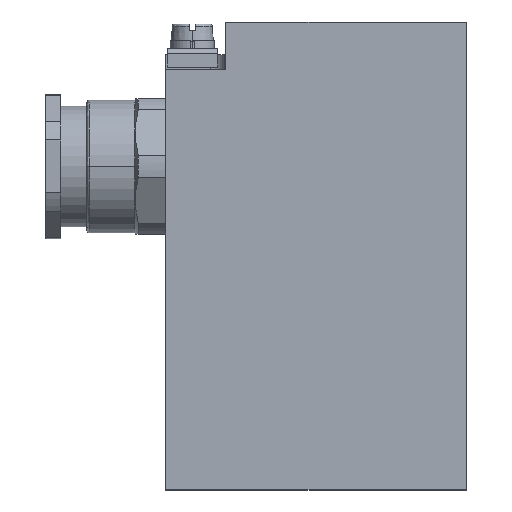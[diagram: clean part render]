
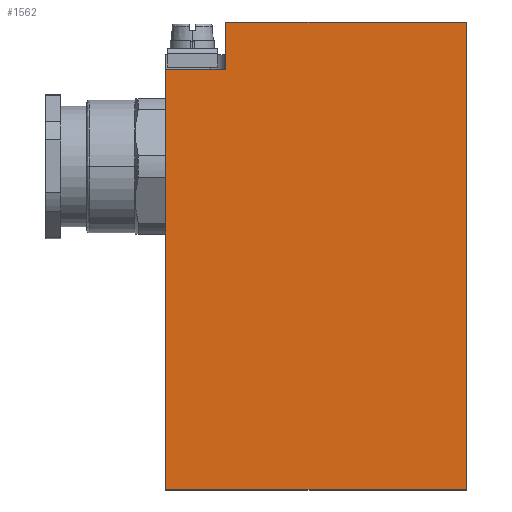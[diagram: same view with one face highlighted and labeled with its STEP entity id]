
A CAD part, top view. The second image highlights one B-rep face of the part: STEP entity #1562.
In plain terms, the highlighted planar face has unit normal (0, 0, 1).
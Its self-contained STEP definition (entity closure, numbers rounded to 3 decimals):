
#914 = EDGE_LOOP ( 'NONE', ( #2291, #2294, #2295, #2293, #2296, #2298 ) ) ;
#1562 = ADVANCED_FACE ( 'NONE', ( #6097 ), #5368, .F. ) ;
#1815 = VERTEX_POINT ( 'NONE', #5694 ) ;
#1816 = VERTEX_POINT ( 'NONE', #5695 ) ;
#1823 = VERTEX_POINT ( 'NONE', #5702 ) ;
#1824 = VERTEX_POINT ( 'NONE', #5703 ) ;
#1830 = VERTEX_POINT ( 'NONE', #5709 ) ;
#1831 = VERTEX_POINT ( 'NONE', #5710 ) ;
#2291 = ORIENTED_EDGE ( 'NONE', *, *, #2852, .T. ) ;
#2293 = ORIENTED_EDGE ( 'NONE', *, *, #2841, .T. ) ;
#2294 = ORIENTED_EDGE ( 'NONE', *, *, #2827, .F. ) ;
#2295 = ORIENTED_EDGE ( 'NONE', *, *, #2837, .F. ) ;
#2296 = ORIENTED_EDGE ( 'NONE', *, *, #2854, .F. ) ;
#2298 = ORIENTED_EDGE ( 'NONE', *, *, #2855, .F. ) ;
#2827 = EDGE_CURVE ( 'NONE', #1815, #1816, #6955, .T. ) ;
#2837 = EDGE_CURVE ( 'NONE', #1823, #1815, #6985, .T. ) ;
#2841 = EDGE_CURVE ( 'NONE', #1823, #1824, #6997, .T. ) ;
#2852 = EDGE_CURVE ( 'NONE', #1830, #1816, #7030, .T. ) ;
#2854 = EDGE_CURVE ( 'NONE', #1831, #1824, #7036, .T. ) ;
#2855 = EDGE_CURVE ( 'NONE', #1830, #1831, #7039, .T. ) ;
#5368 = PLANE ( 'NONE',  #6100 ) ;
#5369 = CARTESIAN_POINT ( 'NONE',  ( 60., -22.5, 22.5 ) ) ;
#5370 = DIRECTION ( 'NONE',  ( 0., 0., -1. ) ) ;
#5371 = DIRECTION ( 'NONE',  ( -1., 0., 0. ) ) ;
#5694 = CARTESIAN_POINT ( 'NONE',  ( 12., 61.3, 22.5 ) ) ;
#5695 = CARTESIAN_POINT ( 'NONE',  ( 12., 70.8, 22.5 ) ) ;
#5702 = CARTESIAN_POINT ( 'NONE',  ( 0., 61.3, 22.5 ) ) ;
#5703 = CARTESIAN_POINT ( 'NONE',  ( 0., -22.5, 22.5 ) ) ;
#5709 = CARTESIAN_POINT ( 'NONE',  ( 60., 70.8, 22.5 ) ) ;
#5710 = CARTESIAN_POINT ( 'NONE',  ( 60., -22.5, 22.5 ) ) ;
#6097 = FACE_OUTER_BOUND ( 'NONE', #914, .T. ) ;
#6100 = AXIS2_PLACEMENT_3D ( 'NONE', #5369, #5370, #5371 ) ;
#6250 = VECTOR ( 'NONE', #6957, 1000. ) ;
#6262 = VECTOR ( 'NONE', #6987, 1000. ) ;
#6265 = VECTOR ( 'NONE', #6999, 1000. ) ;
#6277 = VECTOR ( 'NONE', #7032, 1000. ) ;
#6279 = VECTOR ( 'NONE', #7038, 1000. ) ;
#6280 = VECTOR ( 'NONE', #7041, 1000. ) ;
#6955 = LINE ( 'NONE', #6956, #6250 ) ;
#6956 = CARTESIAN_POINT ( 'NONE',  ( 12., 61.3, 22.5 ) ) ;
#6957 = DIRECTION ( 'NONE',  ( 0., 1., 0. ) ) ;
#6985 = LINE ( 'NONE', #6986, #6262 ) ;
#6986 = CARTESIAN_POINT ( 'NONE',  ( 0., 61.3, 22.5 ) ) ;
#6987 = DIRECTION ( 'NONE',  ( 1., 0., 0. ) ) ;
#6997 = LINE ( 'NONE', #6998, #6265 ) ;
#6998 = CARTESIAN_POINT ( 'NONE',  ( 0., -22.5, 22.5 ) ) ;
#6999 = DIRECTION ( 'NONE',  ( 0., -1., 0. ) ) ;
#7030 = LINE ( 'NONE', #7031, #6277 ) ;
#7031 = CARTESIAN_POINT ( 'NONE',  ( 60., 70.8, 22.5 ) ) ;
#7032 = DIRECTION ( 'NONE',  ( -1., 0., 0. ) ) ;
#7036 = LINE ( 'NONE', #7037, #6279 ) ;
#7037 = CARTESIAN_POINT ( 'NONE',  ( 60., -22.5, 22.5 ) ) ;
#7038 = DIRECTION ( 'NONE',  ( -1., 0., 0. ) ) ;
#7039 = LINE ( 'NONE', #7040, #6280 ) ;
#7040 = CARTESIAN_POINT ( 'NONE',  ( 60., -22.5, 22.5 ) ) ;
#7041 = DIRECTION ( 'NONE',  ( 0., -1., 0. ) ) ;
